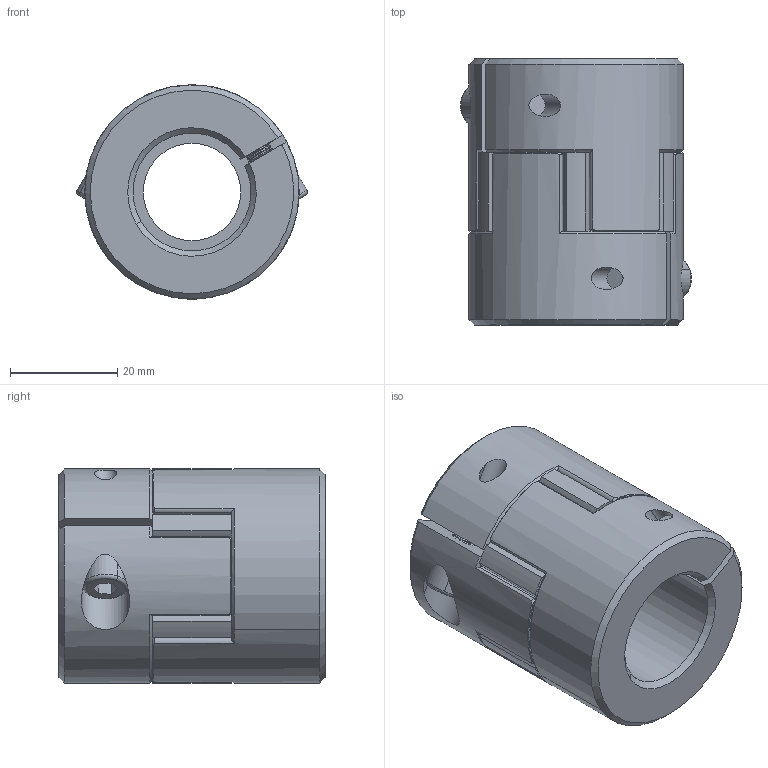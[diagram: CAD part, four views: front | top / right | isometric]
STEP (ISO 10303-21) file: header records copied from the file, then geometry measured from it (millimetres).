
FILE_DESCRIPTION (( 'STEP AP203' ), '1' );
FILE_NAME ('LF-B-D40L50-20-20.STEP', '2021-10-25T03:14:00', ( '' ), ( '' ), 'SwSTEP 2.0', 'SolidWorks 2018', '' );
FILE_SCHEMA (( 'CONFIG_CONTROL_DESIGN' ));
Length unit declared in the file: millimetre
Products named in the file (1): LF-B-D40L50-20-20
Bounding box: 43.11 x 49.7 x 40 mm (x, y, z)
Volume: 44944 mm3; surface area: 14737.6 mm2
Topology: 1 solids, 7 shells, 469 faces, 1109 edges, 658 vertices
Faces by surface type: cone 170, cylinder 169, plane 126, torus 4
Entity records: 13892 total; most frequent: CARTESIAN_POINT 2881, DIRECTION 2493, ORIENTED_EDGE 2210, EDGE_CURVE 1105, AXIS2_PLACEMENT_3D 1034, VERTEX_POINT 658, CIRCLE 564, EDGE_LOOP 487
